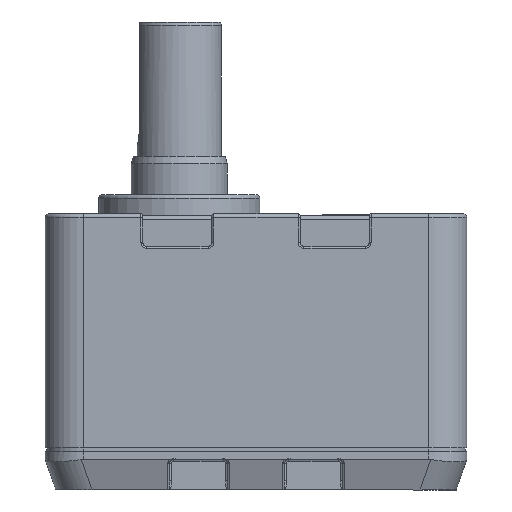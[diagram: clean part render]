
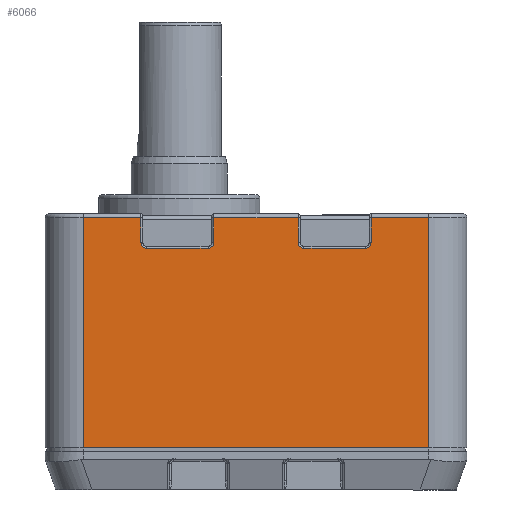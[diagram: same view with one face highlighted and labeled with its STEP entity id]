
A CAD part, left-side view. The second image highlights one B-rep face of the part: STEP entity #6066.
In plain terms, the highlighted planar face has unit normal (-1, 0, 0).
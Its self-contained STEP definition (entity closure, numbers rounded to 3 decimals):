
#2249=CARTESIAN_POINT('',(-110.,25.,-114.194));
#2250=VERTEX_POINT('',#2249);
#2283=CARTESIAN_POINT('',(-110.,25.,-120.694));
#2284=VERTEX_POINT('',#2283);
#2292=CARTESIAN_POINT('',(-110.,25.,-120.694));
#2293=DIRECTION('',(0.0,0.0,1.0));
#2294=VECTOR('',#2293,6.5);
#2295=LINE('',#2292,#2294);
#2296=EDGE_CURVE('',#2284,#2250,#2295,.T.);
#2315=CARTESIAN_POINT('',(-110.,26.5,-122.194));
#2316=VERTEX_POINT('',#2315);
#2324=CARTESIAN_POINT('',(-110.,26.5,-120.694));
#2325=DIRECTION('',(-1.,0.,0.));
#2326=DIRECTION('',(0.,-0.707,-0.707));
#2327=AXIS2_PLACEMENT_3D('',#2324,#2325,#2326);
#2328=CIRCLE('',#2327,1.5);
#2329=EDGE_CURVE('',#2316,#2284,#2328,.T.);
#2349=CARTESIAN_POINT('',(-110.,42.5,-122.194));
#2350=VERTEX_POINT('',#2349);
#2358=CARTESIAN_POINT('',(-110.,42.5,-122.194));
#2359=DIRECTION('',(0.0,-1.0,0.0));
#2360=VECTOR('',#2359,16.);
#2361=LINE('',#2358,#2360);
#2362=EDGE_CURVE('',#2350,#2316,#2361,.T.);
#2381=CARTESIAN_POINT('',(-110.,44.,-120.694));
#2382=VERTEX_POINT('',#2381);
#2390=CARTESIAN_POINT('',(-110.,42.5,-120.694));
#2391=DIRECTION('',(-1.,0.,0.));
#2392=DIRECTION('',(0.,0.707,-0.707));
#2393=AXIS2_PLACEMENT_3D('',#2390,#2391,#2392);
#2394=CIRCLE('',#2393,1.5);
#2395=EDGE_CURVE('',#2382,#2350,#2394,.T.);
#2415=CARTESIAN_POINT('',(-110.,44.,-114.194));
#2416=VERTEX_POINT('',#2415);
#2424=CARTESIAN_POINT('',(-110.,44.,-114.194));
#2425=DIRECTION('',(0.0,0.0,-1.0));
#2426=VECTOR('',#2425,6.5);
#2427=LINE('',#2424,#2426);
#2428=EDGE_CURVE('',#2416,#2382,#2427,.T.);
#2671=CARTESIAN_POINT('',(-110.,66.,-114.194));
#2672=VERTEX_POINT('',#2671);
#2705=CARTESIAN_POINT('',(-110.,66.,-120.694));
#2706=VERTEX_POINT('',#2705);
#2714=CARTESIAN_POINT('',(-110.,66.,-120.694));
#2715=DIRECTION('',(0.0,0.0,1.0));
#2716=VECTOR('',#2715,6.5);
#2717=LINE('',#2714,#2716);
#2718=EDGE_CURVE('',#2706,#2672,#2717,.T.);
#2737=CARTESIAN_POINT('',(-110.,67.5,-122.194));
#2738=VERTEX_POINT('',#2737);
#2746=CARTESIAN_POINT('',(-110.,67.5,-120.694));
#2747=DIRECTION('',(-1.,0.,0.));
#2748=DIRECTION('',(0.,-0.707,-0.707));
#2749=AXIS2_PLACEMENT_3D('',#2746,#2747,#2748);
#2750=CIRCLE('',#2749,1.5);
#2751=EDGE_CURVE('',#2738,#2706,#2750,.T.);
#2771=CARTESIAN_POINT('',(-110.,83.5,-122.194));
#2772=VERTEX_POINT('',#2771);
#2780=CARTESIAN_POINT('',(-110.,83.5,-122.194));
#2781=DIRECTION('',(0.0,-1.0,0.0));
#2782=VECTOR('',#2781,16.0);
#2783=LINE('',#2780,#2782);
#2784=EDGE_CURVE('',#2772,#2738,#2783,.T.);
#2803=CARTESIAN_POINT('',(-110.,85.,-120.694));
#2804=VERTEX_POINT('',#2803);
#2812=CARTESIAN_POINT('',(-110.,83.5,-120.694));
#2813=DIRECTION('',(-1.,0.,0.));
#2814=DIRECTION('',(0.,0.707,-0.707));
#2815=AXIS2_PLACEMENT_3D('',#2812,#2813,#2814);
#2816=CIRCLE('',#2815,1.5);
#2817=EDGE_CURVE('',#2804,#2772,#2816,.T.);
#2837=CARTESIAN_POINT('',(-110.,85.,-114.194));
#2838=VERTEX_POINT('',#2837);
#2846=CARTESIAN_POINT('',(-110.,85.,-114.194));
#2847=DIRECTION('',(0.0,0.0,-1.0));
#2848=VECTOR('',#2847,6.5);
#2849=LINE('',#2846,#2848);
#2850=EDGE_CURVE('',#2838,#2804,#2849,.T.);
#5969=CARTESIAN_POINT('',(-110.,100.,-114.194));
#5970=VERTEX_POINT('',#5969);
#5978=CARTESIAN_POINT('',(-110.,100.,-114.194));
#5979=DIRECTION('',(0.0,-1.0,0.0));
#5980=VECTOR('',#5979,15.);
#5981=LINE('',#5978,#5980);
#5982=EDGE_CURVE('',#5970,#2838,#5981,.T.);
#5993=CARTESIAN_POINT('',(-110.,10.,-114.194));
#5994=VERTEX_POINT('',#5993);
#5995=CARTESIAN_POINT('',(-110.,25.,-114.194));
#5996=DIRECTION('',(0.0,-1.0,0.0));
#5997=VECTOR('',#5996,15.);
#5998=LINE('',#5995,#5997);
#5999=EDGE_CURVE('',#2250,#5994,#5998,.T.);
#6019=CARTESIAN_POINT('',(-110.,110.,-174.194));
#6020=DIRECTION('',(-1.0,0.0,0.0));
#6021=DIRECTION('',(0.0,0.0,-1.0));
#6022=AXIS2_PLACEMENT_3D('',#6019,#6020,#6021);
#6023=PLANE('',#6022);
#6024=ORIENTED_EDGE('',*,*,#2850,.F.);
#6025=ORIENTED_EDGE('',*,*,#5982,.F.);
#6026=CARTESIAN_POINT('',(-110.,100.,-174.194));
#6027=VERTEX_POINT('',#6026);
#6028=CARTESIAN_POINT('',(-110.,100.,-174.194));
#6029=DIRECTION('',(0.0,0.0,1.0));
#6030=VECTOR('',#6029,60.);
#6031=LINE('',#6028,#6030);
#6032=EDGE_CURVE('',#6027,#5970,#6031,.T.);
#6033=ORIENTED_EDGE('',*,*,#6032,.F.);
#6034=CARTESIAN_POINT('',(-110.,10.,-174.194));
#6035=VERTEX_POINT('',#6034);
#6036=CARTESIAN_POINT('',(-110.,100.,-174.194));
#6037=DIRECTION('',(0.0,-1.0,0.0));
#6038=VECTOR('',#6037,90.0);
#6039=LINE('',#6036,#6038);
#6040=EDGE_CURVE('',#6027,#6035,#6039,.T.);
#6041=ORIENTED_EDGE('',*,*,#6040,.T.);
#6042=CARTESIAN_POINT('',(-110.,10.,-114.194));
#6043=DIRECTION('',(0.0,0.0,-1.0));
#6044=VECTOR('',#6043,60.0);
#6045=LINE('',#6042,#6044);
#6046=EDGE_CURVE('',#5994,#6035,#6045,.T.);
#6047=ORIENTED_EDGE('',*,*,#6046,.F.);
#6048=ORIENTED_EDGE('',*,*,#5999,.F.);
#6049=ORIENTED_EDGE('',*,*,#2296,.F.);
#6050=ORIENTED_EDGE('',*,*,#2329,.F.);
#6051=ORIENTED_EDGE('',*,*,#2362,.F.);
#6052=ORIENTED_EDGE('',*,*,#2395,.F.);
#6053=ORIENTED_EDGE('',*,*,#2428,.F.);
#6054=CARTESIAN_POINT('',(-110.,66.,-114.194));
#6055=DIRECTION('',(0.0,-1.0,0.0));
#6056=VECTOR('',#6055,22.);
#6057=LINE('',#6054,#6056);
#6058=EDGE_CURVE('',#2672,#2416,#6057,.T.);
#6059=ORIENTED_EDGE('',*,*,#6058,.F.);
#6060=ORIENTED_EDGE('',*,*,#2718,.F.);
#6061=ORIENTED_EDGE('',*,*,#2751,.F.);
#6062=ORIENTED_EDGE('',*,*,#2784,.F.);
#6063=ORIENTED_EDGE('',*,*,#2817,.F.);
#6064=EDGE_LOOP('',(#6024,#6025,#6033,#6041,#6047,#6048,#6049,#6050,#6051,#6052,#6053,#6059,#6060,#6061,#6062,#6063));
#6065=FACE_OUTER_BOUND('',#6064,.T.);
#6066=ADVANCED_FACE('',(#6065),#6023,.T.);
